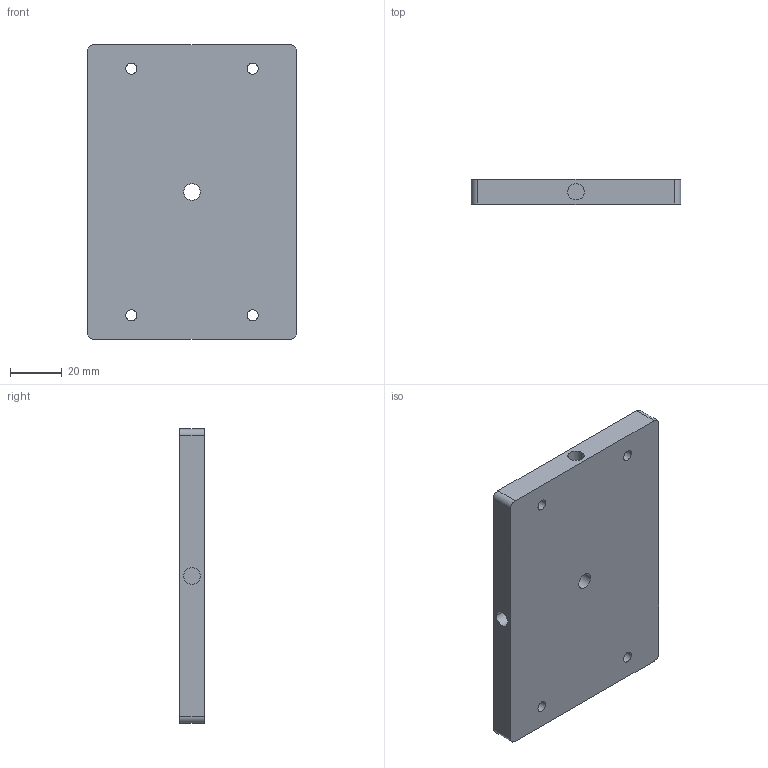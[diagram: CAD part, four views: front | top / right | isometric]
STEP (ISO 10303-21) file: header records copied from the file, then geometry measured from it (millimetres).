
FILE_DESCRIPTION((''),'2;1');
FILE_NAME('PRT0001','2010-10-05T',('dkendric'),(''),'PRO/ENGINEER BY PARAMETRIC TECHNOLOGY CORPORATION, 2006510','PRO/ENGINEER BY PARAMETRIC TECHNOLOGY CORPORATION, 2006510','');
FILE_SCHEMA(('CONFIG_CONTROL_DESIGN'));
Length unit declared in the file: inch
Products named in the file (1): PRT0001
Bounding box: 81.28 x 9.53 x 114.3 mm (x, y, z)
Volume: 85774.8 mm3; surface area: 23746.5 mm2
Topology: 1 solids, 1 shells, 40 faces, 94 edges, 60 vertices
Faces by surface type: cylinder 22, plane 10, cone 8
Entity records: 1226 total; most frequent: DIRECTION 226, CARTESIAN_POINT 194, ORIENTED_EDGE 188, EDGE_CURVE 94, AXIS2_PLACEMENT_3D 92, VERTEX_POINT 60, EDGE_LOOP 54, CIRCLE 52
